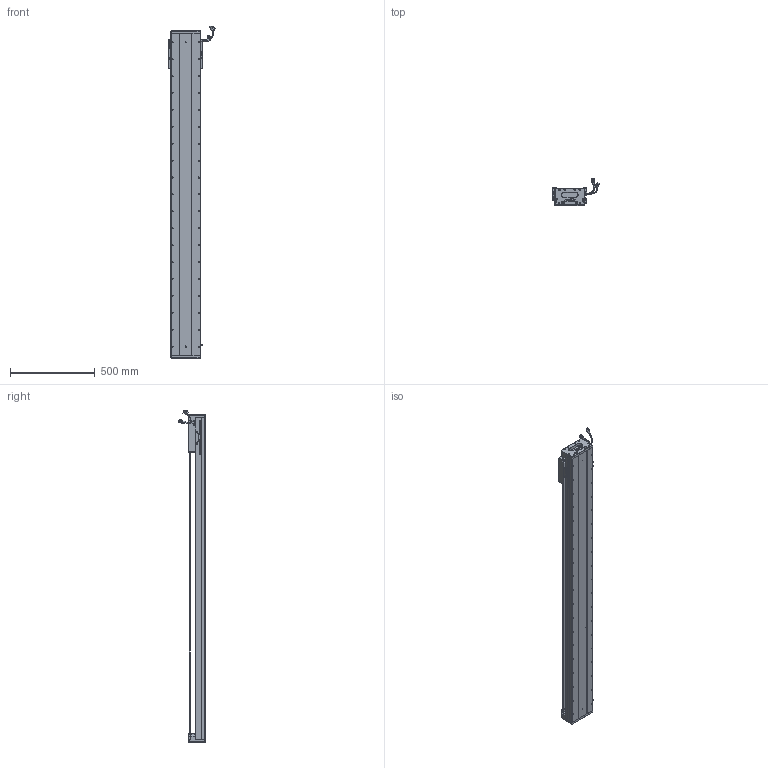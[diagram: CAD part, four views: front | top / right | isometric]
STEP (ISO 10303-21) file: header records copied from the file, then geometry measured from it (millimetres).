
FILE_DESCRIPTION (( 'STEP AP203' ), '1' );
FILE_NAME ('Z2-RY170D-1-L500-B-K.SLDASM_1650.step', '2021-05-17T09:08:43', ( '盈信电脑' ), ( '东莞市道滘镇水果街19号' ), 'SwSTEP 2.0', 'SolidWorks 2016', '' );
FILE_SCHEMA (( 'CONFIG_CONTROL_DESIGN' ));
Length unit declared in the file: millimetre
Products named in the file (36): Z-RY170詩湍狟揤裔; SCALE-Part-2; LABEL-Part-1; LABEL; SCREW-M1.6-1; COVER-Part-1; Z2-RY170D-1-L500-B-K.SLDASM_1650; 170-Z-臏賑輸盄裔(21遴); HOLDER0; SCALE; SEAL-Part-1; Z2-RY170-L500詩湍145mm遵_1650; HARNESS; 140雄赽晤鎢ん堤盄; Z2-RY170臏賑輸(21遴); SCREW-M1.6-3; RY170直线电机感应器672光电感应片; Z2-RY170-L500耀郪菁釱_1650; SCREW-M1.6; COVER; SCREW-M1.6-2; Z-170詩湍傷裔啣; Z-RY170詩湍奻揤裔; 榋妏寠巭燃_暯_M2_2; SCALE-Part-1; SCREW-M1.7; SEAL; PSLH080_PSLF2; SCREW-M1.7-1; 140蚥薯蝶輸; 覜茼ん672; HARNESS-Part-2; HARNESS-Part-1; 080黍杅芛假蚾釱21遴; PBU_SHEET; SHIELDPLATE
Assembly tree (41 placements, depth 4):
  Z2-RY170D-1-L500-B-K.SLDASM_1650
    Z2-RY170-L500耀郪菁釱_1650
    RY170直线电机感应器672光电感应片
    Z2-RY170臏賑輸(21遴)
    覜茼ん672  x3
    PSLH080_PSLF2
      SCALE
        SCALE-Part-1
        SCALE-Part-2
      HARNESS
        HARNESS-Part-1
        HARNESS-Part-2
      LABEL
        LABEL-Part-1
      COVER
        COVER-Part-1
      SEAL
        SEAL-Part-1
      榋妏寠巭燃_暯_M2_2
      SHIELDPLATE
      SCREW-M1.7
      SCREW-M1.7-1
      PBU_SHEET
      SCREW-M1.6
      SCREW-M1.6-1
      SCREW-M1.6-2
      SCREW-M1.6-3
      HOLDER0
    080黍杅芛假蚾釱21遴
    Z2-RY170-L500詩湍145mm遵_1650
    Z-170詩湍傷裔啣  x2
    Z-RY170詩湍奻揤裔  x2
    Z-RY170詩湍狟揤裔  x2
    140蚥薯蝶輸  x2
    170-Z-臏賑輸盄裔(21遴)
    140雄赽晤鎢ん堤盄
Bounding box: 275.34 x 158.11 x 1963.72 mm (x, y, z)
Volume: 9944400.8 mm3; surface area: 2453629.3 mm2
Topology: 36 solids, 36 shells, 3612 faces, 9891 edges, 6195 vertices
Faces by surface type: cylinder 1754, plane 1248, cone 488, torus 69, bspline 53
Entity records: 110955 total; most frequent: CARTESIAN_POINT 30108, ORIENTED_EDGE 16410, DIRECTION 15581, EDGE_CURVE 8205, AXIS2_PLACEMENT_3D 5726, VERTEX_POINT 5313, LINE 4129, VECTOR 4129
